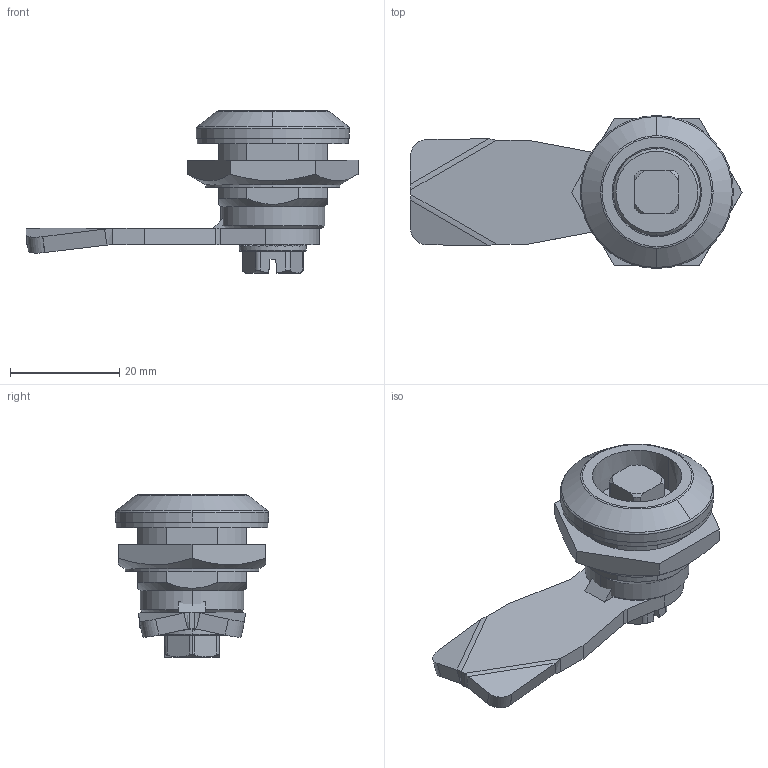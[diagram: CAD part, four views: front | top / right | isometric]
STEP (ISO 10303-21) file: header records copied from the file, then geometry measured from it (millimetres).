
FILE_DESCRIPTION (( 'STEP AP214' ), '1' );
FILE_NAME ('M22GP5.STEP', '2016-08-22T06:17:13', ( 'Krzysiek' ), ( '' ), 'SwSTEP 2.0', 'SolidWorks 2015', '' );
FILE_SCHEMA (( 'AUTOMOTIVE_DESIGN' ));
Length unit declared in the file: millimetre
Products named in the file (9): 2.NKR_M22 - A1; 2.IP65.002_A; DIN 6921_M6x10; 1C.J-1XX.GH.L_#3, 1.65.18.45; DIN 3771_12x2; 2.M22.GP4.000.03_A; 2.S.M22GP4.001_KW8; 2.K.M22GP5.001_A; M22GP5
Assembly tree (8 placements, depth 2):
  M22GP5
    2.K.M22GP5.001_A
    2.S.M22GP4.001_KW8
    2.M22.GP4.000.03_A
    DIN 3771_12x2
    1C.J-1XX.GH.L_#3, 1.65.18.45
    DIN 6921_M6x10
    2.IP65.002_A
    2.NKR_M22 - A1
Bounding box: 60.75 x 28 x 29.65 mm (x, y, z)
Volume: 11230.6 mm3; surface area: 10262.1 mm2
Topology: 8 solids, 8 shells, 376 faces, 940 edges, 590 vertices
Faces by surface type: plane 195, cylinder 91, bspline 49, cone 41
Entity records: 12767 total; most frequent: CARTESIAN_POINT 4125, ORIENTED_EDGE 1876, DIRECTION 1565, EDGE_CURVE 938, VERTEX_POINT 590, AXIS2_PLACEMENT_3D 556, LINE 453, VECTOR 453
